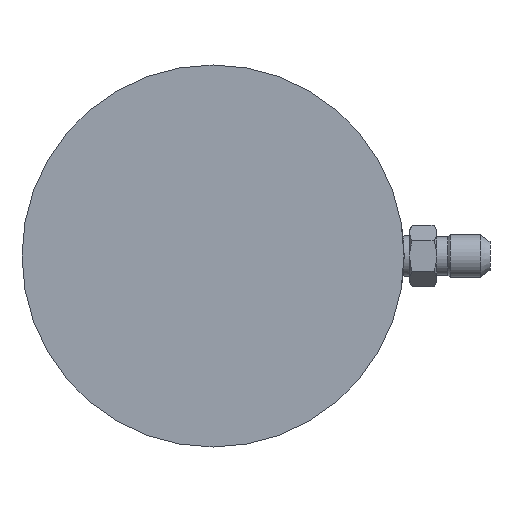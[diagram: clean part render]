
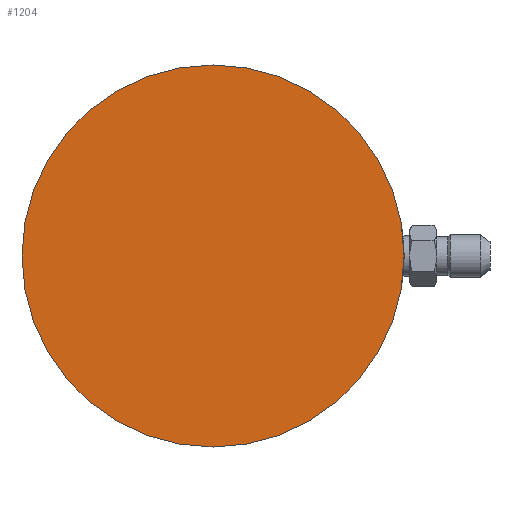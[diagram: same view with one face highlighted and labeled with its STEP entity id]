
A CAD part, front view. The second image highlights one B-rep face of the part: STEP entity #1204.
In plain terms, the highlighted planar face has unit normal (0, -1, 0).
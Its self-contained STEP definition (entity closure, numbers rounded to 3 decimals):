
#10 = AXIS2_PLACEMENT_3D ( 'NONE', #581, #239, #913 ) ;
#14 = CARTESIAN_POINT ( 'NONE',  ( 0., -236.1, -50. ) ) ;
#23 = PLANE ( 'NONE',  #10 ) ;
#101 = EDGE_LOOP ( 'NONE', ( #216, #755 ) ) ;
#216 = ORIENTED_EDGE ( 'NONE', *, *, #1217, .F. ) ;
#239 = DIRECTION ( 'NONE',  ( 0., 1., 0. ) ) ;
#323 = DIRECTION ( 'NONE',  ( 0., 1., 0. ) ) ;
#334 = DIRECTION ( 'NONE',  ( 0., 0., 1. ) ) ;
#401 = DIRECTION ( 'NONE',  ( 0., 1., 0. ) ) ;
#452 = CARTESIAN_POINT ( 'NONE',  ( 0., -236.1, 0. ) ) ;
#544 = CIRCLE ( 'NONE', #785, 50. ) ;
#574 = EDGE_CURVE ( 'NONE', #957, #803, #603, .T. ) ;
#581 = CARTESIAN_POINT ( 'NONE',  ( 50., -236.1, 0. ) ) ;
#603 = CIRCLE ( 'NONE', #1382, 50. ) ;
#686 = DIRECTION ( 'NONE',  ( 0., 0., 1. ) ) ;
#715 = CARTESIAN_POINT ( 'NONE',  ( 0., -236.1, 50. ) ) ;
#755 = ORIENTED_EDGE ( 'NONE', *, *, #574, .F. ) ;
#785 = AXIS2_PLACEMENT_3D ( 'NONE', #452, #323, #686 ) ;
#803 = VERTEX_POINT ( 'NONE', #715 ) ;
#910 = CARTESIAN_POINT ( 'NONE',  ( 0., -236.1, 0. ) ) ;
#913 = DIRECTION ( 'NONE',  ( 0., 0., 1. ) ) ;
#957 = VERTEX_POINT ( 'NONE', #14 ) ;
#1054 = FACE_OUTER_BOUND ( 'NONE', #101, .T. ) ;
#1204 = ADVANCED_FACE ( 'NONE', ( #1054 ), #23, .F. ) ;
#1217 = EDGE_CURVE ( 'NONE', #803, #957, #544, .T. ) ;
#1382 = AXIS2_PLACEMENT_3D ( 'NONE', #910, #401, #334 ) ;
